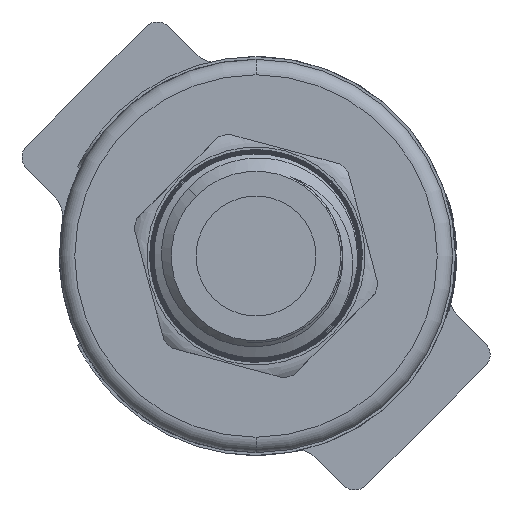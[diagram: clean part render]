
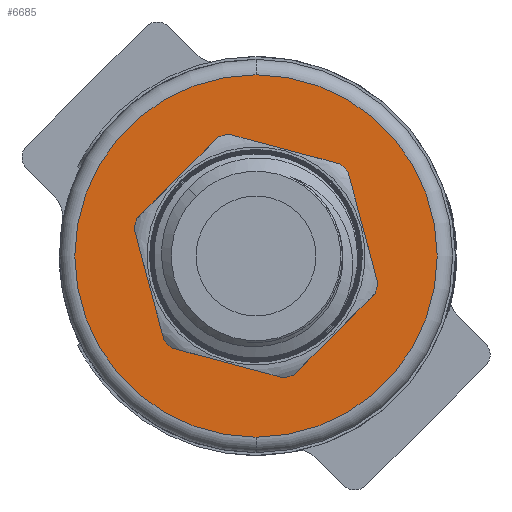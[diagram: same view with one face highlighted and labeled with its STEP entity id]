
A CAD part, front view. The second image highlights one B-rep face of the part: STEP entity #6685.
In plain terms, the highlighted planar face has unit normal (0, -1, 0).
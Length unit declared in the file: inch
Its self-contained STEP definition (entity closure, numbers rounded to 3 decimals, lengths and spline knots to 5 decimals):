
#442 = ORIENTED_EDGE ( 'NONE', *, *, #14092, .F. ) ;
#528 = DIRECTION ( 'NONE',  ( 0., 0., -1. ) ) ;
#639 = VERTEX_POINT ( 'NONE', #18122 ) ;
#946 = CARTESIAN_POINT ( 'NONE',  ( 0., 0.15748, 0. ) ) ;
#1081 = DIRECTION ( 'NONE',  ( 0., -1., 0. ) ) ;
#1188 = CARTESIAN_POINT ( 'NONE',  ( 0., 0.15748, 0.46063 ) ) ;
#1645 = DIRECTION ( 'NONE',  ( 0., -1., 0. ) ) ;
#1679 = DIRECTION ( 'NONE',  ( 0., -1., 0. ) ) ;
#2353 = ORIENTED_EDGE ( 'NONE', *, *, #19570, .T. ) ;
#3016 = AXIS2_PLACEMENT_3D ( 'NONE', #20892, #1645, #5603 ) ;
#3104 = EDGE_LOOP ( 'NONE', ( #2353, #11729 ) ) ;
#3658 = AXIS2_PLACEMENT_3D ( 'NONE', #10587, #25470, #21257 ) ;
#4714 = EDGE_CURVE ( 'NONE', #639, #20108, #10203, .T. ) ;
#5603 = DIRECTION ( 'NONE',  ( 0., 0., -1. ) ) ;
#5768 = CARTESIAN_POINT ( 'NONE',  ( 0., 0.15748, 0.1875 ) ) ;
#6685 = ADVANCED_FACE ( 'NONE', ( #12637, #15031 ), #25281, .T. ) ;
#6830 = EDGE_CURVE ( 'NONE', #9422, #9836, #25938, .T. ) ;
#9422 = VERTEX_POINT ( 'NONE', #1188 ) ;
#9836 = VERTEX_POINT ( 'NONE', #25309 ) ;
#10203 = CIRCLE ( 'NONE', #3016, 0.1875 ) ;
#10587 = CARTESIAN_POINT ( 'NONE',  ( 0., 0.15748, 0. ) ) ;
#11729 = ORIENTED_EDGE ( 'NONE', *, *, #6830, .T. ) ;
#12037 = AXIS2_PLACEMENT_3D ( 'NONE', #25414, #1679, #18690 ) ;
#12637 = FACE_OUTER_BOUND ( 'NONE', #3104, .T. ) ;
#13342 = DIRECTION ( 'NONE',  ( 0., 0., -1. ) ) ;
#14092 = EDGE_CURVE ( 'NONE', #20108, #639, #19810, .T. ) ;
#15031 = FACE_BOUND ( 'NONE', #24728, .T. ) ;
#16745 = ORIENTED_EDGE ( 'NONE', *, *, #4714, .F. ) ;
#18122 = CARTESIAN_POINT ( 'NONE',  ( 0., 0.15748, -0.1875 ) ) ;
#18690 = DIRECTION ( 'NONE',  ( 0., 0., -1. ) ) ;
#19570 = EDGE_CURVE ( 'NONE', #9836, #9422, #25023, .T. ) ;
#19810 = CIRCLE ( 'NONE', #3658, 0.1875 ) ;
#20108 = VERTEX_POINT ( 'NONE', #5768 ) ;
#20892 = CARTESIAN_POINT ( 'NONE',  ( 0., 0.15748, 0. ) ) ;
#21018 = AXIS2_PLACEMENT_3D ( 'NONE', #26377, #25817, #13342 ) ;
#21257 = DIRECTION ( 'NONE',  ( 0., 0., -1. ) ) ;
#24728 = EDGE_LOOP ( 'NONE', ( #16745, #442 ) ) ;
#25023 = CIRCLE ( 'NONE', #26788, 0.46063 ) ;
#25281 = PLANE ( 'NONE',  #12037 ) ;
#25309 = CARTESIAN_POINT ( 'NONE',  ( 0., 0.15748, -0.46063 ) ) ;
#25414 = CARTESIAN_POINT ( 'NONE',  ( 0., 0.15748, 0. ) ) ;
#25470 = DIRECTION ( 'NONE',  ( 0., -1., 0. ) ) ;
#25817 = DIRECTION ( 'NONE',  ( 0., -1., 0. ) ) ;
#25938 = CIRCLE ( 'NONE', #21018, 0.46063 ) ;
#26377 = CARTESIAN_POINT ( 'NONE',  ( 0., 0.15748, 0. ) ) ;
#26788 = AXIS2_PLACEMENT_3D ( 'NONE', #946, #1081, #528 ) ;
